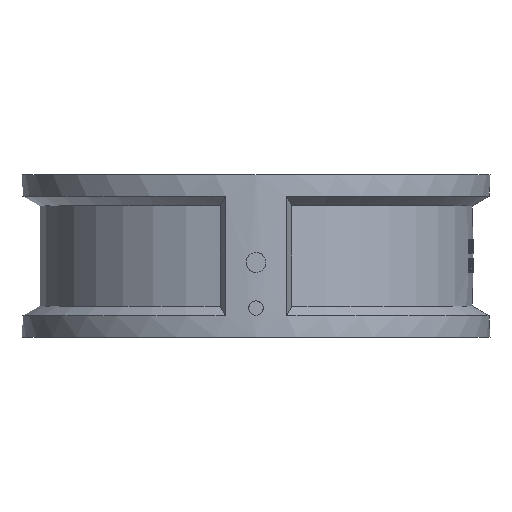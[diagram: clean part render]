
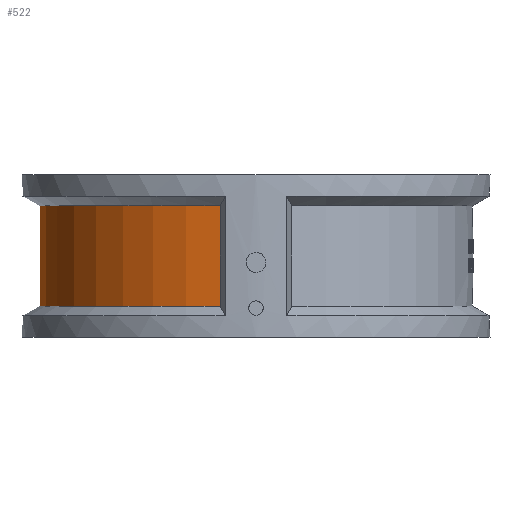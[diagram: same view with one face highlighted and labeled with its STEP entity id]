
A CAD part, left-side view. The second image highlights one B-rep face of the part: STEP entity #522.
In plain terms, the highlighted cylindrical face has radius 152 mm (diameter 304 mm), a partial arc.
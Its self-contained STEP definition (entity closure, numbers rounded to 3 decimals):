
#522 = ADVANCED_FACE( '', ( #1219 ), #1220, .T. );
#1219 = FACE_OUTER_BOUND( '', #6933, .T. );
#1220 = CYLINDRICAL_SURFACE( '', #6934, 152. );
#6933 = EDGE_LOOP( '', ( #15322, #15323, #15324, #15325 ) );
#6934 = AXIS2_PLACEMENT_3D( '', #15326, #15327, #15328 );
#15322 = ORIENTED_EDGE( '', *, *, #17056, .T. );
#15323 = ORIENTED_EDGE( '', *, *, #17057, .F. );
#15324 = ORIENTED_EDGE( '', *, *, #17058, .F. );
#15325 = ORIENTED_EDGE( '', *, *, #16854, .T. );
#15326 = CARTESIAN_POINT( '', ( 0., 0., -57. ) );
#15327 = DIRECTION( '', ( 0., 0., 1. ) );
#15328 = DIRECTION( '', ( -1., 0., 0. ) );
#16854 = EDGE_CURVE( '', #17951, #17948, #17952, .T. );
#17056 = EDGE_CURVE( '', #17948, #18259, #18260, .T. );
#17057 = EDGE_CURVE( '', #18261, #18259, #18262, .T. );
#17058 = EDGE_CURVE( '', #17951, #18261, #18263, .T. );
#17948 = VERTEX_POINT( '', #20608 );
#17951 = VERTEX_POINT( '', #20614 );
#17952 = CIRCLE( '', #20615, 152. );
#18259 = VERTEX_POINT( '', #22882 );
#18260 = LINE( '', #22883, #22884 );
#18261 = VERTEX_POINT( '', #22885 );
#18262 = CIRCLE( '', #22886, 152. );
#18263 = LINE( '', #22887, #22888 );
#20608 = CARTESIAN_POINT( '', ( 149.93, 25., 35.072 ) );
#20614 = CARTESIAN_POINT( '', ( -149.93, 25., 35.072 ) );
#20615 = AXIS2_PLACEMENT_3D( '', #26722, #26723, #26724 );
#22882 = CARTESIAN_POINT( '', ( 149.93, 25., -35.072 ) );
#22883 = CARTESIAN_POINT( '', ( 149.93, 25., 57. ) );
#22884 = VECTOR( '', #26810, 1000. );
#22885 = CARTESIAN_POINT( '', ( -149.93, 25., -35.072 ) );
#22886 = AXIS2_PLACEMENT_3D( '', #26811, #26812, #26813 );
#22887 = CARTESIAN_POINT( '', ( -149.93, 25., 57. ) );
#22888 = VECTOR( '', #26814, 1000. );
#26722 = CARTESIAN_POINT( '', ( 0., 0., 35.072 ) );
#26723 = DIRECTION( '', ( 0., 0., -1. ) );
#26724 = DIRECTION( '', ( -1., 0., 0. ) );
#26810 = DIRECTION( '', ( 0., 0., -1. ) );
#26811 = CARTESIAN_POINT( '', ( 0., 0., -35.072 ) );
#26812 = DIRECTION( '', ( 0., 0., -1. ) );
#26813 = DIRECTION( '', ( -1., 0., 0. ) );
#26814 = DIRECTION( '', ( 0., 0., -1. ) );
